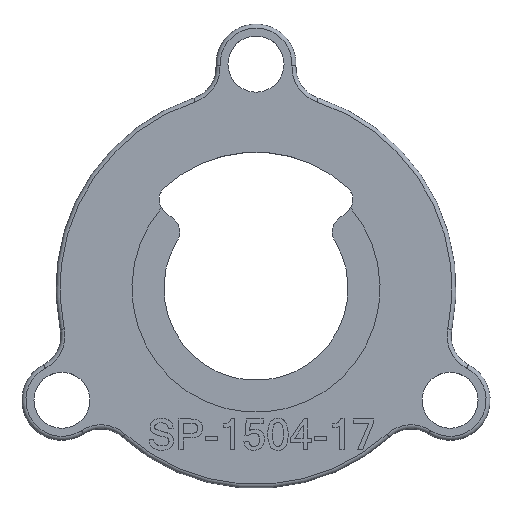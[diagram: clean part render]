
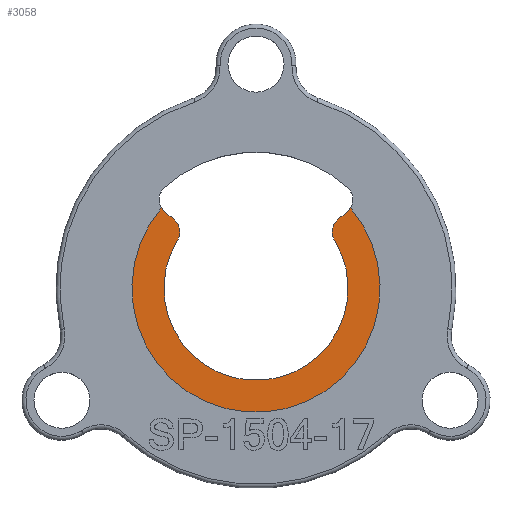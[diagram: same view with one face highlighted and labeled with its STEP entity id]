
A CAD part, top view. The second image highlights one B-rep face of the part: STEP entity #3058.
In plain terms, the highlighted planar face has unit normal (0, 0, 1).
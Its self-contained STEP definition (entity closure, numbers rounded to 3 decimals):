
#47=CIRCLE('',#3167,1.);
#48=CIRCLE('',#3170,5.75);
#49=CIRCLE('',#3171,1.);
#50=CIRCLE('',#3172,1.);
#51=CIRCLE('',#3173,7.75);
#52=CIRCLE('',#3174,1.);
#571=VERTEX_POINT('',#5111);
#572=VERTEX_POINT('',#5113);
#573=VERTEX_POINT('',#5117);
#575=VERTEX_POINT('',#5123);
#576=VERTEX_POINT('',#5125);
#577=VERTEX_POINT('',#5127);
#578=VERTEX_POINT('',#5129);
#579=VERTEX_POINT('',#5131);
#867=VECTOR('',#3582,1.);
#870=VECTOR('',#3590,1.);
#1125=LINE('',#5116,#867);
#1128=LINE('',#5126,#870);
#1511=EDGE_CURVE('',#571,#572,#47,.T.);
#1513=EDGE_CURVE('',#573,#572,#1125,.T.);
#1516=EDGE_CURVE('',#575,#571,#48,.T.);
#1517=EDGE_CURVE('',#576,#575,#49,.T.);
#1518=EDGE_CURVE('',#576,#577,#1128,.T.);
#1519=EDGE_CURVE('',#578,#577,#50,.T.);
#1520=EDGE_CURVE('',#578,#579,#51,.T.);
#1521=EDGE_CURVE('',#579,#573,#52,.F.);
#2234=ORIENTED_EDGE('',*,*,#1511,.F.);
#2235=ORIENTED_EDGE('',*,*,#1516,.F.);
#2236=ORIENTED_EDGE('',*,*,#1517,.F.);
#2237=ORIENTED_EDGE('',*,*,#1518,.T.);
#2238=ORIENTED_EDGE('',*,*,#1519,.F.);
#2239=ORIENTED_EDGE('',*,*,#1520,.T.);
#2240=ORIENTED_EDGE('',*,*,#1521,.T.);
#2241=ORIENTED_EDGE('',*,*,#1513,.T.);
#2661=EDGE_LOOP('',(#2234,#2235,#2236,#2237,#2238,#2239,#2240,#2241));
#2861=FACE_BOUND('',#2661,.T.);
#3058=ADVANCED_FACE('',(#2861),#5373,.T.);
#3167=AXIS2_PLACEMENT_3D('',#5112,#3578,#3579);
#3169=AXIS2_PLACEMENT_3D('',#5121,#3585,$);
#3170=AXIS2_PLACEMENT_3D('',#5122,#3586,#3587);
#3171=AXIS2_PLACEMENT_3D('',#5124,#3588,#3589);
#3172=AXIS2_PLACEMENT_3D('',#5128,#3591,#3592);
#3173=AXIS2_PLACEMENT_3D('',#5130,#3593,#3594);
#3174=AXIS2_PLACEMENT_3D('',#5132,#3595,#3596);
#3578=DIRECTION('',(0.,0.,-1.));
#3579=DIRECTION('',(-0.987,0.161,0.));
#3582=DIRECTION('',(-0.766,-0.643,0.));
#3585=DIRECTION('',(0.,0.,1.));
#3586=DIRECTION('',(0.,0.,1.));
#3587=DIRECTION('',(-5.75,0.,0.));
#3588=DIRECTION('',(0.,0.,-1.));
#3589=DIRECTION('',(0.987,0.161,0.));
#3590=DIRECTION('',(-0.766,0.643,0.));
#3591=DIRECTION('',(0.,0.,1.));
#3592=DIRECTION('',(-1.,-0.02,0.));
#3593=DIRECTION('',(0.,0.,1.));
#3594=DIRECTION('',(7.75,0.,0.));
#3595=DIRECTION('',(0.,0.,1.));
#3596=DIRECTION('',(1.,-0.02,0.));
#5111=CARTESIAN_POINT('',(4.904,3.003,1.));
#5112=CARTESIAN_POINT('',(5.757,3.525,1.));
#5113=CARTESIAN_POINT('',(5.114,4.291,1.));
#5116=CARTESIAN_POINT('',(1.628,1.366,1.));
#5117=CARTESIAN_POINT('',(5.694,4.778,1.));
#5121=CARTESIAN_POINT('',(0.,0.,1.));
#5122=CARTESIAN_POINT('',(0.,0.,1.));
#5123=CARTESIAN_POINT('',(-4.904,3.003,1.));
#5124=CARTESIAN_POINT('',(-5.757,3.525,1.));
#5125=CARTESIAN_POINT('',(-5.114,4.291,1.));
#5126=CARTESIAN_POINT('',(-1.628,1.366,1.));
#5127=CARTESIAN_POINT('',(-5.694,4.778,1.));
#5128=CARTESIAN_POINT('',(-5.051,5.544,1.));
#5129=CARTESIAN_POINT('',(-5.904,5.021,1.));
#5130=CARTESIAN_POINT('',(0.,0.,1.));
#5131=CARTESIAN_POINT('',(5.904,5.021,1.));
#5132=CARTESIAN_POINT('',(5.051,5.544,1.));
#5373=PLANE('',#3169);
